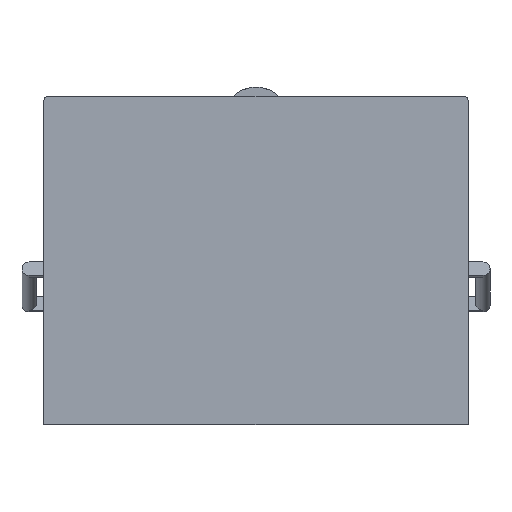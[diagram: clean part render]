
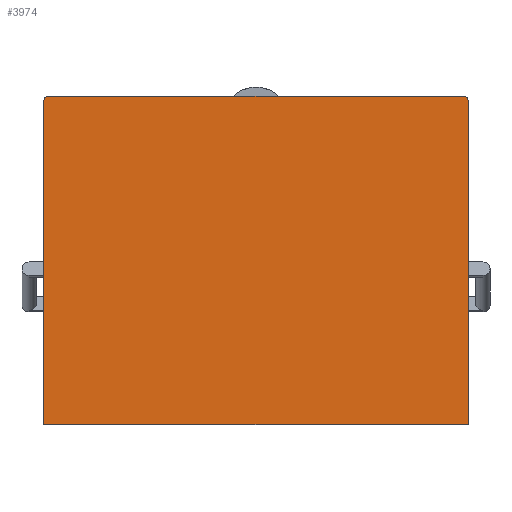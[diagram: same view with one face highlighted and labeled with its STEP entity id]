
A CAD part, top view. The second image highlights one B-rep face of the part: STEP entity #3974.
In plain terms, the highlighted planar face has unit normal (0, 0, 1) as drawn and (0, 0, -1) by its records, which use the part's own axes.
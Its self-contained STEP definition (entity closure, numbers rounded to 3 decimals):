
#64 = VECTOR ( 'NONE', #1108, 1000. ) ;
#103 = PLANE ( 'NONE',  #3341 ) ;
#108 = CARTESIAN_POINT ( 'NONE',  ( 220., -170., 0. ) ) ;
#121 = DIRECTION ( 'NONE',  ( 0., 0., 1. ) ) ;
#448 = ORIENTED_EDGE ( 'NONE', *, *, #4162, .F. ) ;
#566 = VECTOR ( 'NONE', #1138, 1000. ) ;
#719 = CIRCLE ( 'NONE', #4271, 5. ) ;
#723 = DIRECTION ( 'NONE',  ( 1., 0., 0. ) ) ;
#732 = ORIENTED_EDGE ( 'NONE', *, *, #2359, .F. ) ;
#767 = DIRECTION ( 'NONE',  ( 1., 0., 0. ) ) ;
#843 = VERTEX_POINT ( 'NONE', #1976 ) ;
#1061 = AXIS2_PLACEMENT_3D ( 'NONE', #3023, #2312, #723 ) ;
#1108 = DIRECTION ( 'NONE',  ( 0., -1., 0. ) ) ;
#1138 = DIRECTION ( 'NONE',  ( 0., 1., 0. ) ) ;
#1160 = EDGE_LOOP ( 'NONE', ( #1570, #1796, #732, #448, #3765, #4181 ) ) ;
#1387 = CARTESIAN_POINT ( 'NONE',  ( -220., -170., 0. ) ) ;
#1436 = EDGE_CURVE ( 'NONE', #1922, #3307, #2942, .T. ) ;
#1440 = LINE ( 'NONE', #1700, #64 ) ;
#1447 = VERTEX_POINT ( 'NONE', #1387 ) ;
#1535 = EDGE_CURVE ( 'NONE', #1922, #843, #1730, .T. ) ;
#1570 = ORIENTED_EDGE ( 'NONE', *, *, #1535, .F. ) ;
#1581 = VERTEX_POINT ( 'NONE', #3907 ) ;
#1617 = EDGE_CURVE ( 'NONE', #1581, #843, #719, .T. ) ;
#1700 = CARTESIAN_POINT ( 'NONE',  ( -220., -170., 0. ) ) ;
#1730 = LINE ( 'NONE', #3459, #2247 ) ;
#1785 = CARTESIAN_POINT ( 'NONE',  ( 0., 0., 0. ) ) ;
#1796 = ORIENTED_EDGE ( 'NONE', *, *, #1436, .T. ) ;
#1900 = DIRECTION ( 'NONE',  ( -1., 0., 0. ) ) ;
#1922 = VERTEX_POINT ( 'NONE', #3771 ) ;
#1976 = CARTESIAN_POINT ( 'NONE',  ( -215., 170., 0. ) ) ;
#2217 = CARTESIAN_POINT ( 'NONE',  ( -215., 165., 0. ) ) ;
#2247 = VECTOR ( 'NONE', #1900, 1000. ) ;
#2312 = DIRECTION ( 'NONE',  ( 0., 0., -1. ) ) ;
#2359 = EDGE_CURVE ( 'NONE', #3244, #3307, #2701, .T. ) ;
#2427 = FACE_OUTER_BOUND ( 'NONE', #1160, .T. ) ;
#2471 = CARTESIAN_POINT ( 'NONE',  ( 220., -170., 0. ) ) ;
#2701 = LINE ( 'NONE', #108, #566 ) ;
#2942 = CIRCLE ( 'NONE', #1061, 5. ) ;
#2948 = LINE ( 'NONE', #4280, #3762 ) ;
#3023 = CARTESIAN_POINT ( 'NONE',  ( 215., 165., 0. ) ) ;
#3244 = VERTEX_POINT ( 'NONE', #2471 ) ;
#3307 = VERTEX_POINT ( 'NONE', #4244 ) ;
#3341 = AXIS2_PLACEMENT_3D ( 'NONE', #1785, #121, #4078 ) ;
#3459 = CARTESIAN_POINT ( 'NONE',  ( 220., 170., 0. ) ) ;
#3762 = VECTOR ( 'NONE', #3951, 1000. ) ;
#3765 = ORIENTED_EDGE ( 'NONE', *, *, #3967, .F. ) ;
#3771 = CARTESIAN_POINT ( 'NONE',  ( 215., 170., 0. ) ) ;
#3787 = DIRECTION ( 'NONE',  ( 0., 0., -1. ) ) ;
#3907 = CARTESIAN_POINT ( 'NONE',  ( -220., 165., 0. ) ) ;
#3951 = DIRECTION ( 'NONE',  ( 1., 0., 0. ) ) ;
#3967 = EDGE_CURVE ( 'NONE', #1581, #1447, #1440, .T. ) ;
#3974 = ADVANCED_FACE ( 'NONE', ( #2427 ), #103, .F. ) ;
#4078 = DIRECTION ( 'NONE',  ( 1., 0., 0. ) ) ;
#4162 = EDGE_CURVE ( 'NONE', #1447, #3244, #2948, .T. ) ;
#4181 = ORIENTED_EDGE ( 'NONE', *, *, #1617, .T. ) ;
#4244 = CARTESIAN_POINT ( 'NONE',  ( 220., 165., 0. ) ) ;
#4271 = AXIS2_PLACEMENT_3D ( 'NONE', #2217, #3787, #767 ) ;
#4280 = CARTESIAN_POINT ( 'NONE',  ( 220., -170., 0. ) ) ;
